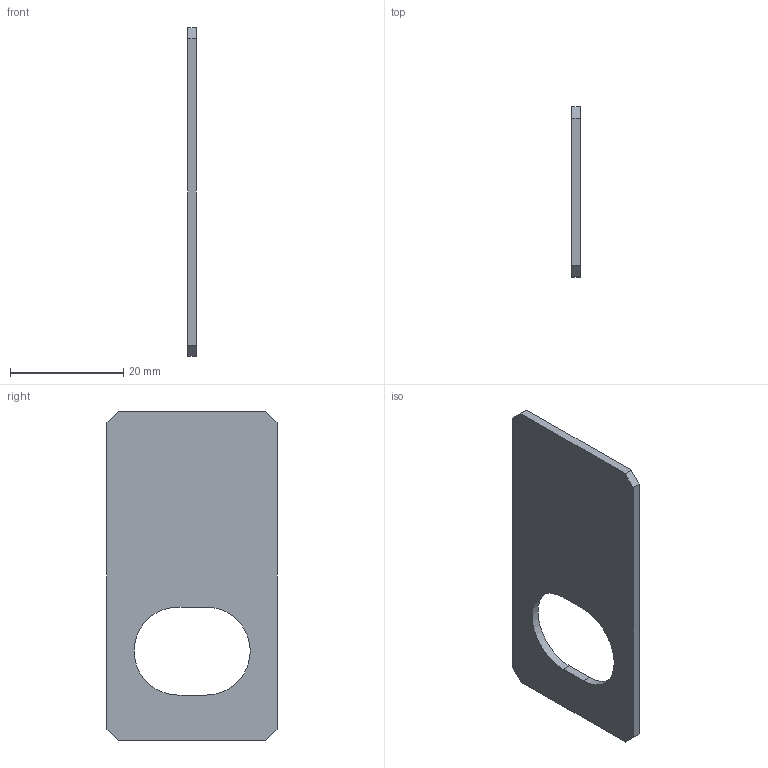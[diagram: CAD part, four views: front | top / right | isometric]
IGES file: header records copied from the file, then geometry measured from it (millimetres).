
Start section: START RECORD GO HERE.
Global section: file name: 20M_ST_2006 (Plan pivot2).igs; native system: IBM CATIA IGES - CATIA Version 5 Release 19 ; preprocessor: CATIA Version 5 Release 19 ; author: Mathieu Jacquet; organization: MBPRO; date: 20200123.204732; units: millimetre
Bounding box: 1.5 x 30 x 58 mm (x, y, z)
Surface area: 3276.6 mm2 (no closed solid volume)
Topology: 0 solids, 0 shells, 14 faces, 72 edges, 72 vertices
Faces by surface type: plane 12, revolution 2
